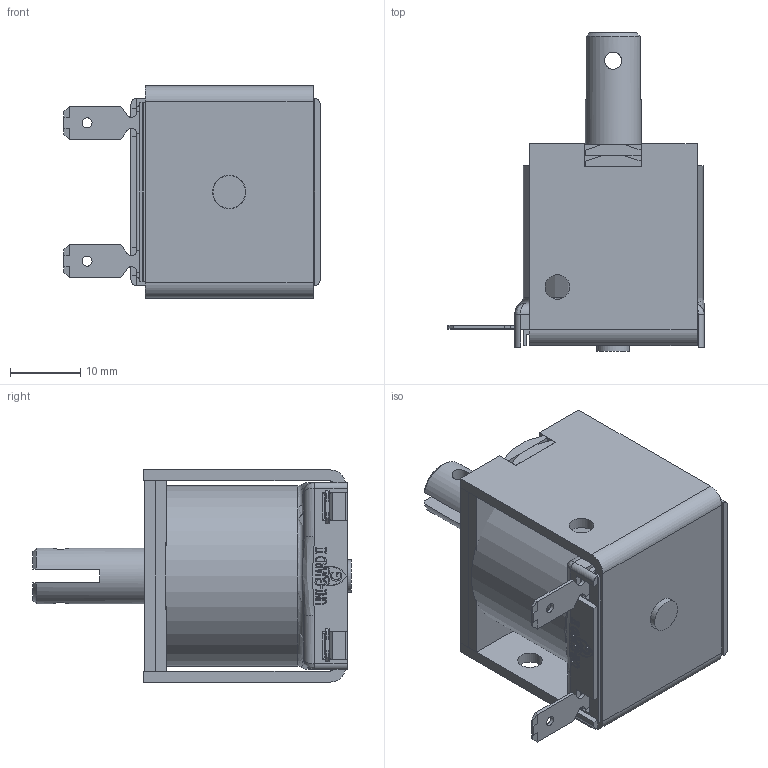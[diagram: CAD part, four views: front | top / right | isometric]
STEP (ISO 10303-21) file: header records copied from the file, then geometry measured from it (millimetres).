
FILE_DESCRIPTION((''),'2;1');
FILE_NAME('C:\Website 3D Models STP Files\MODEL 28 AC.stp','2014-09-23T16:31:51',('Dennis'),(''),'Autodesk Inventor 2013','Autodesk Inventor 2013','');
FILE_SCHEMA(('AUTOMOTIVE_DESIGN { 1 0 10303 214 1 1 1 1 }'));
Length unit declared in the file: inch
Products named in the file (3): MODEL 28 AC; A420-065447-00_Shrinkwrap_1; 104-010291-00
Assembly tree (2 placements, depth 2):
  MODEL 28 AC
    A420-065447-00_Shrinkwrap_1
    104-010291-00
Bounding box: 36.37 x 45.21 x 30.12 mm (x, y, z)
Volume: 10561.7 mm3; surface area: 17499.1 mm2
Topology: 10 solids, 10 shells, 662 faces, 1775 edges, 1159 vertices
Faces by surface type: plane 440, cylinder 108, bspline 99, torus 11, cone 4
Full cylindrical faces by diameter (mm): 1.397 x2, 2.438 x2, 2.997 x1, 3.124 x1, 3.505 x3, 4.623 x1, 4.75 x1, 6.782 x1, 6.934 x1, 7.925 x1, 7.938 x1, 8.128 x1, 9.474 x1, 9.55 x2, 9.652 x1, 19.05 x1, 19.456 x1, 23.8 x1, 24.003 x1, 25.578 x1
Entity records: 21850 total; most frequent: CARTESIAN_POINT 5563, ORIENTED_EDGE 3468, DIRECTION 2920, EDGE_CURVE 1734, VECTOR 1284, LINE 1284, VERTEX_POINT 1151, AXIS2_PLACEMENT_3D 818
